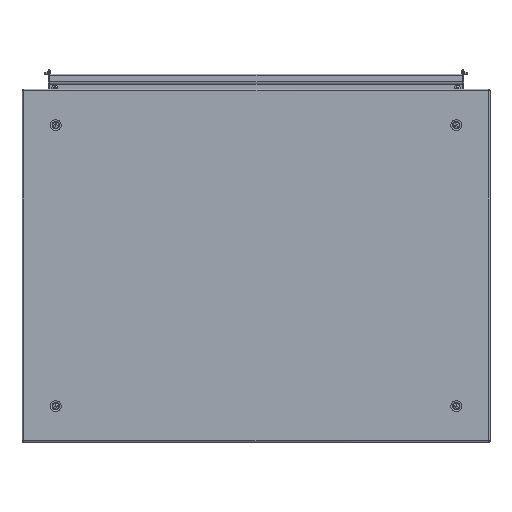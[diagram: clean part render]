
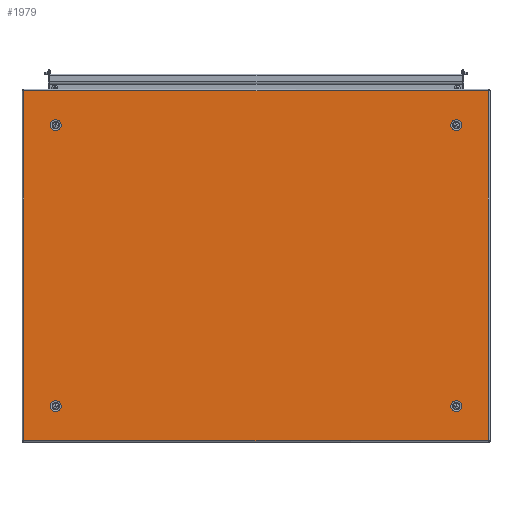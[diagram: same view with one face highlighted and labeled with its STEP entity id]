
A CAD part, left-side view. The second image highlights one B-rep face of the part: STEP entity #1979.
In plain terms, the highlighted planar face has unit normal (-1, 0, 0).
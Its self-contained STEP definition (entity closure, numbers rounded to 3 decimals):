
#1979=ADVANCED_FACE('',(#2788,#2790,#2792,#2794,#2796),#2798,.F.);
#2788=FACE_BOUND('',#2789,.T.);
#2789=EDGE_LOOP('',(#9657,#9658,#9659,#9660));
#2790=FACE_BOUND('',#2791,.T.);
#2791=EDGE_LOOP('',(#9661));
#2792=FACE_BOUND('',#2793,.T.);
#2793=EDGE_LOOP('',(#9662));
#2794=FACE_BOUND('',#2795,.T.);
#2795=EDGE_LOOP('',(#9663));
#2796=FACE_BOUND('',#2797,.T.);
#2797=EDGE_LOOP('',(#9664));
#2798=PLANE('',#2799);
#2799=AXIS2_PLACEMENT_3D('',#2800,#2801,#2802);
#2800=CARTESIAN_POINT('',(0.,0.,0.));
#2801=DIRECTION('',(1.,0.,0.));
#2802=DIRECTION('',(0.,1.,0.));
#9657=ORIENTED_EDGE('',*,*,#11681,.T.);
#9658=ORIENTED_EDGE('',*,*,#11682,.T.);
#9659=ORIENTED_EDGE('',*,*,#11683,.T.);
#9660=ORIENTED_EDGE('',*,*,#11684,.T.);
#9661=ORIENTED_EDGE('',*,*,#11685,.T.);
#9662=ORIENTED_EDGE('',*,*,#11686,.T.);
#9663=ORIENTED_EDGE('',*,*,#11687,.T.);
#9664=ORIENTED_EDGE('',*,*,#11688,.T.);
#11681=EDGE_CURVE('',#12755,#12756,#12757,.T.);
#11682=EDGE_CURVE('',#12756,#12758,#12759,.T.);
#11683=EDGE_CURVE('',#12758,#12760,#12761,.T.);
#11684=EDGE_CURVE('',#12760,#12755,#12762,.T.);
#11685=EDGE_CURVE('',#12763,#12763,#12764,.T.);
#11686=EDGE_CURVE('',#12765,#12765,#12766,.T.);
#11687=EDGE_CURVE('',#12767,#12767,#12768,.T.);
#11688=EDGE_CURVE('',#12769,#12769,#12770,.T.);
#12755=VERTEX_POINT('',#14618);
#12756=VERTEX_POINT('',#14619);
#12757=LINE('',#14620,#14621);
#12758=VERTEX_POINT('',#14623);
#12759=LINE('',#14624,#14625);
#12760=VERTEX_POINT('',#14627);
#12761=LINE('',#14628,#14629);
#12762=LINE('',#14631,#14632);
#12763=VERTEX_POINT('',#14634);
#12764=CIRCLE('',#14635,9.25);
#12765=VERTEX_POINT('',#14639);
#12766=CIRCLE('',#14640,9.25);
#12767=VERTEX_POINT('',#14644);
#12768=CIRCLE('',#14645,9.25);
#12769=VERTEX_POINT('',#14649);
#12770=CIRCLE('',#14650,9.25);
#14618=CARTESIAN_POINT('',(0.,392.7,295.7));
#14619=CARTESIAN_POINT('',(0.,392.7,-295.7));
#14620=CARTESIAN_POINT('',(0.,392.7,295.7));
#14621=VECTOR('',#14622,1.);
#14622=DIRECTION('',(0.,0.,-1.));
#14623=CARTESIAN_POINT('',(0.,-392.7,-295.7));
#14624=CARTESIAN_POINT('',(0.,392.7,-295.7));
#14625=VECTOR('',#14626,1.);
#14626=DIRECTION('',(0.,-1.,0.));
#14627=CARTESIAN_POINT('',(0.,-392.7,295.7));
#14628=CARTESIAN_POINT('',(0.,-392.7,-295.7));
#14629=VECTOR('',#14630,1.);
#14630=DIRECTION('',(0.,0.,1.));
#14631=CARTESIAN_POINT('',(0.,-392.7,295.7));
#14632=VECTOR('',#14633,1.);
#14633=DIRECTION('',(0.,1.,0.));
#14634=CARTESIAN_POINT('',(0.,347.75,237.5));
#14635=AXIS2_PLACEMENT_3D('',#14636,#14637,#14638);
#14636=CARTESIAN_POINT('',(0.,338.5,237.5));
#14637=DIRECTION('',(1.,0.,0.));
#14638=DIRECTION('',(0.,1.,0.));
#14639=CARTESIAN_POINT('',(0.,-329.25,237.5));
#14640=AXIS2_PLACEMENT_3D('',#14641,#14642,#14643);
#14641=CARTESIAN_POINT('',(0.,-338.5,237.5));
#14642=DIRECTION('',(1.,0.,0.));
#14643=DIRECTION('',(0.,1.,0.));
#14644=CARTESIAN_POINT('',(0.,-329.25,-237.5));
#14645=AXIS2_PLACEMENT_3D('',#14646,#14647,#14648);
#14646=CARTESIAN_POINT('',(0.,-338.5,-237.5));
#14647=DIRECTION('',(1.,0.,0.));
#14648=DIRECTION('',(0.,1.,0.));
#14649=CARTESIAN_POINT('',(0.,347.75,-237.5));
#14650=AXIS2_PLACEMENT_3D('',#14651,#14652,#14653);
#14651=CARTESIAN_POINT('',(0.,338.5,-237.5));
#14652=DIRECTION('',(1.,0.,0.));
#14653=DIRECTION('',(0.,1.,0.));
